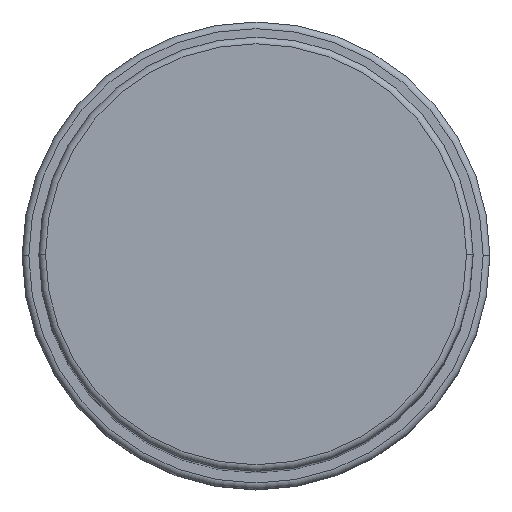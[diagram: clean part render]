
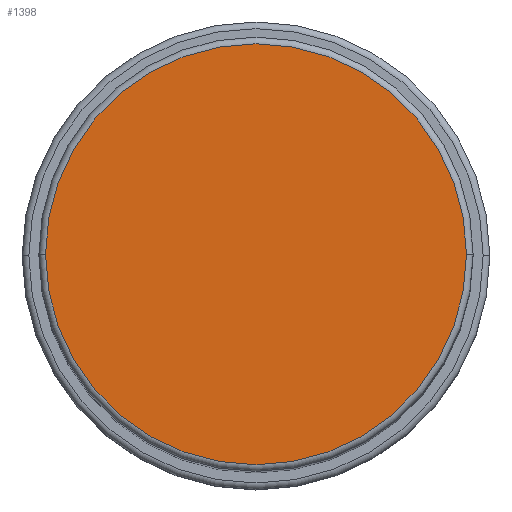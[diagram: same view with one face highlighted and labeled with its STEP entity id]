
A CAD part, top view. The second image highlights one B-rep face of the part: STEP entity #1398.
In plain terms, the highlighted planar face has unit normal (0, 0, 1).
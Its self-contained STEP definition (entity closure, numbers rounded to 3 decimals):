
#62 = CARTESIAN_POINT ( 'NONE',  ( 0., 0., 148. ) ) ;
#161 = EDGE_CURVE ( 'NONE', #1253, #789, #1028, .T. ) ;
#291 = AXIS2_PLACEMENT_3D ( 'NONE', #876, #1144, #902 ) ;
#369 = AXIS2_PLACEMENT_3D ( 'NONE', #62, #1448, #800 ) ;
#370 = ORIENTED_EDGE ( 'NONE', *, *, #1131, .T. ) ;
#476 = DIRECTION ( 'NONE',  ( 1., 0., 0. ) ) ;
#686 = PLANE ( 'NONE',  #369 ) ;
#789 = VERTEX_POINT ( 'NONE', #935 ) ;
#800 = DIRECTION ( 'NONE',  ( 1., 0., 0. ) ) ;
#864 = DIRECTION ( 'NONE',  ( 0., 0., 1. ) ) ;
#876 = CARTESIAN_POINT ( 'NONE',  ( 0., 0., 148. ) ) ;
#902 = DIRECTION ( 'NONE',  ( 1., 0., 0. ) ) ;
#906 = CARTESIAN_POINT ( 'NONE',  ( 31.5, 0., 148. ) ) ;
#935 = CARTESIAN_POINT ( 'NONE',  ( -31.5, 0., 148. ) ) ;
#1028 = CIRCLE ( 'NONE', #1564, 31.5 ) ;
#1131 = EDGE_CURVE ( 'NONE', #789, #1253, #1594, .T. ) ;
#1139 = ORIENTED_EDGE ( 'NONE', *, *, #161, .T. ) ;
#1144 = DIRECTION ( 'NONE',  ( 0., 0., 1. ) ) ;
#1166 = FACE_OUTER_BOUND ( 'NONE', #1531, .T. ) ;
#1236 = CARTESIAN_POINT ( 'NONE',  ( 0., 0., 148. ) ) ;
#1253 = VERTEX_POINT ( 'NONE', #906 ) ;
#1398 = ADVANCED_FACE ( 'NONE', ( #1166 ), #686, .T. ) ;
#1448 = DIRECTION ( 'NONE',  ( 0., 0., 1. ) ) ;
#1531 = EDGE_LOOP ( 'NONE', ( #1139, #370 ) ) ;
#1564 = AXIS2_PLACEMENT_3D ( 'NONE', #1236, #864, #476 ) ;
#1594 = CIRCLE ( 'NONE', #291, 31.5 ) ;
